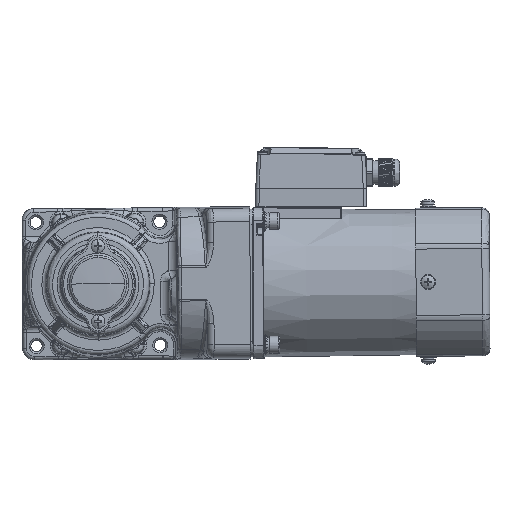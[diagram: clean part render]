
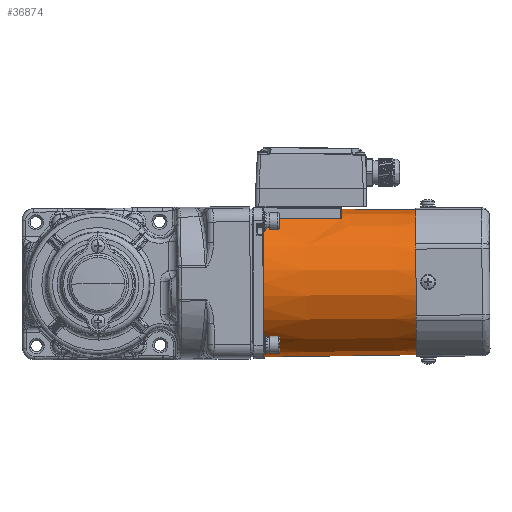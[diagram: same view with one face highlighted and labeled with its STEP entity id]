
A CAD part, left-side view. The second image highlights one B-rep face of the part: STEP entity #36874.
In plain terms, the highlighted conical face has half-angle 0.5 degrees and reference radius 44 mm.
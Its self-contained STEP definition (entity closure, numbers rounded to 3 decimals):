
#2679 = CARTESIAN_POINT ( 'NONE',  ( 9.054, -6.352, 179. ) ) ;
#4626 = EDGE_CURVE ( 'NONE', #12814, #111967, #44496, .T. ) ;
#5847 = LINE ( 'NONE', #51196, #44882 ) ;
#6915 = CARTESIAN_POINT ( 'NONE',  ( 46.948, 15.202, 178.855 ) ) ;
#6924 = CIRCLE ( 'NONE', #24068, 43.594 ) ;
#6992 = DIRECTION ( 'NONE',  ( 0., 0., 1. ) ) ;
#7499 = CARTESIAN_POINT ( 'NONE',  ( 46.988, 15.13, 178.937 ) ) ;
#11628 = DIRECTION ( 'NONE',  ( -1., 0., 0. ) ) ;
#12814 = VERTEX_POINT ( 'NONE', #77933 ) ;
#15972 = CARTESIAN_POINT ( 'NONE',  ( 9.054, -6.352, 132.5 ) ) ;
#15991 = CARTESIAN_POINT ( 'NONE',  ( 9.054, -6.352, 132.5 ) ) ;
#16069 = EDGE_LOOP ( 'NONE', ( #87551, #19725, #43262, #40880, #89047, #16544, #103391 ) ) ;
#16544 = ORIENTED_EDGE ( 'NONE', *, *, #46699, .T. ) ;
#18804 = DIRECTION ( 'NONE',  ( 0., 0., 1. ) ) ;
#19725 = ORIENTED_EDGE ( 'NONE', *, *, #51602, .T. ) ;
#24068 = AXIS2_PLACEMENT_3D ( 'NONE', #2679, #18804, #11628 ) ;
#24826 = CARTESIAN_POINT ( 'NONE',  ( 47.092, 14.944, 179. ) ) ;
#27161 = CARTESIAN_POINT ( 'NONE',  ( 47.003, 15.104, 178.956 ) ) ;
#28184 = VECTOR ( 'NONE', #117304, 1000. ) ;
#33278 = DIRECTION ( 'NONE',  ( -1., 0., 0. ) ) ;
#33461 = CARTESIAN_POINT ( 'NONE',  ( 46.925, 15.244, 178.703 ) ) ;
#34127 = VERTEX_POINT ( 'NONE', #70720 ) ;
#34983 = CARTESIAN_POINT ( 'NONE',  ( 46.977, 15.149, 178.919 ) ) ;
#36212 = CARTESIAN_POINT ( 'NONE',  ( 47.081, 15.513, 147.901 ) ) ;
#36803 = CIRCLE ( 'NONE', #65408, 43.11 ) ;
#36807 = CARTESIAN_POINT ( 'NONE',  ( 46.925, 15.244, 178.703 ) ) ;
#36869 = CONICAL_SURFACE ( 'NONE', #54063, 44., 0.009 ) ;
#36874 = ADVANCED_FACE ( 'NONE', ( #87584 ), #36869, .T. ) ;
#38743 = AXIS2_PLACEMENT_3D ( 'NONE', #15991, #6992, #69692 ) ;
#40880 = ORIENTED_EDGE ( 'NONE', *, *, #108451, .F. ) ;
#42274 = DIRECTION ( 'NONE',  ( 0.009, 0., -1. ) ) ;
#43262 = ORIENTED_EDGE ( 'NONE', *, *, #52920, .T. ) ;
#43842 = DIRECTION ( 'NONE',  ( -1., 0., 0. ) ) ;
#43938 = CARTESIAN_POINT ( 'NONE',  ( 46.942, 15.212, 178.837 ) ) ;
#44496 = LINE ( 'NONE', #108325, #28184 ) ;
#44882 = VECTOR ( 'NONE', #42274, 1000. ) ;
#45332 = VERTEX_POINT ( 'NONE', #83544 ) ;
#45605 = B_SPLINE_CURVE_WITH_KNOTS ( 'NONE', 3,
 ( #36807, #100055, #36212, #63643 ),
 .UNSPECIFIED., .F., .F.,
 ( 4, 4 ),
 ( 0., 0.046 ),
 .UNSPECIFIED. ) ;
#46699 = EDGE_CURVE ( 'NONE', #52326, #111967, #74944, .T. ) ;
#51196 = CARTESIAN_POINT ( 'NONE',  ( 53.054, -6.352, 132.5 ) ) ;
#51602 = EDGE_CURVE ( 'NONE', #34127, #95454, #5847, .T. ) ;
#52326 = VERTEX_POINT ( 'NONE', #54176 ) ;
#52920 = EDGE_CURVE ( 'NONE', #95454, #45332, #6924, .T. ) ;
#53092 = CARTESIAN_POINT ( 'NONE',  ( 46.925, 15.244, 178.741 ) ) ;
#54044 = CARTESIAN_POINT ( 'NONE',  ( 46.958, 15.184, 178.881 ) ) ;
#54063 = AXIS2_PLACEMENT_3D ( 'NONE', #15972, #88765, #33278 ) ;
#54176 = CARTESIAN_POINT ( 'NONE',  ( 47.159, 15.648, 132.5 ) ) ;
#54339 = CARTESIAN_POINT ( 'NONE',  ( 46.925, 15.244, 178.703 ) ) ;
#61218 = CARTESIAN_POINT ( 'NONE',  ( 46.963, 15.174, 178.893 ) ) ;
#63643 = CARTESIAN_POINT ( 'NONE',  ( 47.159, 15.648, 132.5 ) ) ;
#65408 = AXIS2_PLACEMENT_3D ( 'NONE', #72437, #80806, #43842 ) ;
#65935 = B_SPLINE_CURVE_WITH_KNOTS ( 'NONE', 3,
 ( #33461, #53092, #89526, #43938, #6915, #54044, #61218, #115564, #117918, #107178, #34983, #7499, #27161, #80294, #71950, #24826 ),
 .UNSPECIFIED., .F., .F.,
 ( 4, 2, 2, 1, 1, 2, 2, 2, 4 ),
 ( 0., 0.25, 0.375, 0.437, 0.469, 0.484, 0.5, 0.75, 1. ),
 .UNSPECIFIED. ) ;
#69692 = DIRECTION ( 'NONE',  ( -1., 0., 0. ) ) ;
#70720 = CARTESIAN_POINT ( 'NONE',  ( 52.163, -6.352, 234.5 ) ) ;
#71950 = CARTESIAN_POINT ( 'NONE',  ( 47.064, 14.994, 179. ) ) ;
#72437 = CARTESIAN_POINT ( 'NONE',  ( 9.054, -6.352, 234.5 ) ) ;
#74944 = CIRCLE ( 'NONE', #38743, 44. ) ;
#77933 = CARTESIAN_POINT ( 'NONE',  ( -34.056, -6.352, 234.5 ) ) ;
#80294 = CARTESIAN_POINT ( 'NONE',  ( 47.041, 15.037, 178.988 ) ) ;
#80806 = DIRECTION ( 'NONE',  ( 0., 0., -1. ) ) ;
#82735 = VERTEX_POINT ( 'NONE', #54339 ) ;
#83544 = CARTESIAN_POINT ( 'NONE',  ( 47.092, 14.944, 179. ) ) ;
#86001 = CARTESIAN_POINT ( 'NONE',  ( 52.648, -6.352, 179. ) ) ;
#87551 = ORIENTED_EDGE ( 'NONE', *, *, #98554, .T. ) ;
#87584 = FACE_OUTER_BOUND ( 'NONE', #16069, .T. ) ;
#88765 = DIRECTION ( 'NONE',  ( 0., 0., -1. ) ) ;
#89047 = ORIENTED_EDGE ( 'NONE', *, *, #102245, .T. ) ;
#89526 = CARTESIAN_POINT ( 'NONE',  ( 46.929, 15.236, 178.78 ) ) ;
#95454 = VERTEX_POINT ( 'NONE', #86001 ) ;
#98554 = EDGE_CURVE ( 'NONE', #12814, #34127, #36803, .T. ) ;
#100055 = CARTESIAN_POINT ( 'NONE',  ( 47.003, 15.379, 163.302 ) ) ;
#102245 = EDGE_CURVE ( 'NONE', #82735, #52326, #45605, .T. ) ;
#103391 = ORIENTED_EDGE ( 'NONE', *, *, #4626, .F. ) ;
#103660 = CARTESIAN_POINT ( 'NONE',  ( -34.946, -6.352, 132.5 ) ) ;
#107178 = CARTESIAN_POINT ( 'NONE',  ( 46.975, 15.152, 178.916 ) ) ;
#108325 = CARTESIAN_POINT ( 'NONE',  ( -34.946, -6.352, 132.5 ) ) ;
#108451 = EDGE_CURVE ( 'NONE', #82735, #45332, #65935, .T. ) ;
#111967 = VERTEX_POINT ( 'NONE', #103660 ) ;
#115564 = CARTESIAN_POINT ( 'NONE',  ( 46.97, 15.162, 178.907 ) ) ;
#117304 = DIRECTION ( 'NONE',  ( -0.009, 0., -1. ) ) ;
#117918 = CARTESIAN_POINT ( 'NONE',  ( 46.973, 15.156, 178.913 ) ) ;
